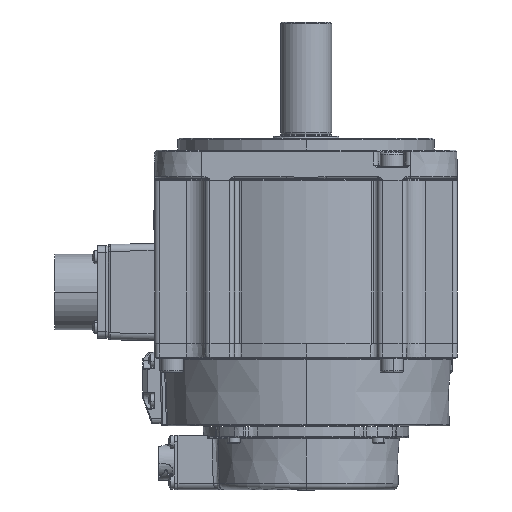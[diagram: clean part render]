
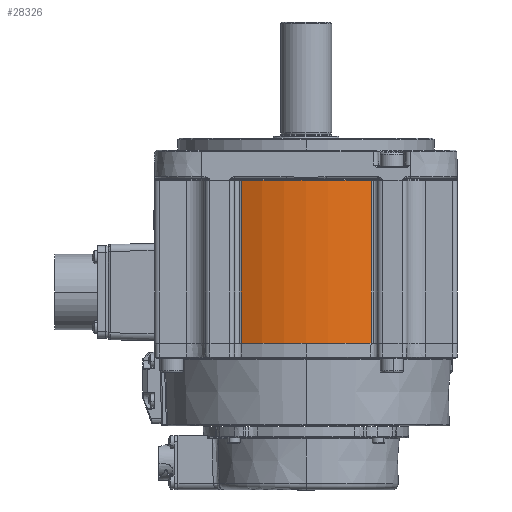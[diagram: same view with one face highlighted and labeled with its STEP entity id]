
A CAD part, left-side view. The second image highlights one B-rep face of the part: STEP entity #28326.
In plain terms, the highlighted cylindrical face has radius 64.5 mm (diameter 129 mm), a partial arc.
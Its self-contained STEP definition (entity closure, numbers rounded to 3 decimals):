
#149 = ORIENTED_EDGE ( 'NONE', *, *, #47678, .F. ) ;
#1377 = CARTESIAN_POINT ( 'NONE',  ( 0., 0., -36. ) ) ;
#2157 = ORIENTED_EDGE ( 'NONE', *, *, #27793, .T. ) ;
#5766 = DIRECTION ( 'NONE',  ( 1., 0., 0. ) ) ;
#7001 = EDGE_CURVE ( 'NONE', #9615, #12162, #53680, .T. ) ;
#8041 = ORIENTED_EDGE ( 'NONE', *, *, #7001, .F. ) ;
#9407 = ORIENTED_EDGE ( 'NONE', *, *, #46452, .T. ) ;
#9615 = VERTEX_POINT ( 'NONE', #41303 ) ;
#10509 = VECTOR ( 'NONE', #17833, 1000. ) ;
#12162 = VERTEX_POINT ( 'NONE', #45277 ) ;
#13191 = CARTESIAN_POINT ( 'NONE',  ( 0., 0., 35. ) ) ;
#13477 = CARTESIAN_POINT ( 'NONE',  ( -58.154, -27.9, -36. ) ) ;
#16314 = LINE ( 'NONE', #26158, #36610 ) ;
#17145 = AXIS2_PLACEMENT_3D ( 'NONE', #13191, #43525, #17565 ) ;
#17565 = DIRECTION ( 'NONE',  ( 0., -1., 0. ) ) ;
#17833 = DIRECTION ( 'NONE',  ( 0., 0., 1. ) ) ;
#18378 = CARTESIAN_POINT ( 'NONE',  ( -58.154, -27.9, 35. ) ) ;
#18900 = DIRECTION ( 'NONE',  ( 0., 0., 1. ) ) ;
#21055 = AXIS2_PLACEMENT_3D ( 'NONE', #1377, #18900, #5766 ) ;
#21428 = CYLINDRICAL_SURFACE ( 'NONE', #21055, 64.5 ) ;
#22758 = FACE_OUTER_BOUND ( 'NONE', #29669, .T. ) ;
#23901 = DIRECTION ( 'NONE',  ( 0., 0., -1. ) ) ;
#26158 = CARTESIAN_POINT ( 'NONE',  ( -58.154, 27.9, -36. ) ) ;
#27793 = EDGE_CURVE ( 'NONE', #9615, #42312, #45142, .T. ) ;
#28326 = ADVANCED_FACE ( 'NONE', ( #22758 ), #21428, .T. ) ;
#29669 = EDGE_LOOP ( 'NONE', ( #8041, #2157, #149, #9407 ) ) ;
#32865 = AXIS2_PLACEMENT_3D ( 'NONE', #49931, #23901, #54274 ) ;
#34364 = VERTEX_POINT ( 'NONE', #42710 ) ;
#36610 = VECTOR ( 'NONE', #47629, 1000. ) ;
#37886 = CIRCLE ( 'NONE', #17145, 64.5 ) ;
#41303 = CARTESIAN_POINT ( 'NONE',  ( -58.154, -27.9, -35. ) ) ;
#42312 = VERTEX_POINT ( 'NONE', #18378 ) ;
#42710 = CARTESIAN_POINT ( 'NONE',  ( -58.154, 27.9, 35. ) ) ;
#43525 = DIRECTION ( 'NONE',  ( 0., 0., 1. ) ) ;
#45142 = LINE ( 'NONE', #13477, #10509 ) ;
#45277 = CARTESIAN_POINT ( 'NONE',  ( -58.154, 27.9, -35. ) ) ;
#46452 = EDGE_CURVE ( 'NONE', #34364, #12162, #16314, .T. ) ;
#47629 = DIRECTION ( 'NONE',  ( 0., 0., -1. ) ) ;
#47678 = EDGE_CURVE ( 'NONE', #34364, #42312, #37886, .T. ) ;
#49931 = CARTESIAN_POINT ( 'NONE',  ( 0., 0., -35. ) ) ;
#53680 = CIRCLE ( 'NONE', #32865, 64.5 ) ;
#54274 = DIRECTION ( 'NONE',  ( 0., 1., 0. ) ) ;
